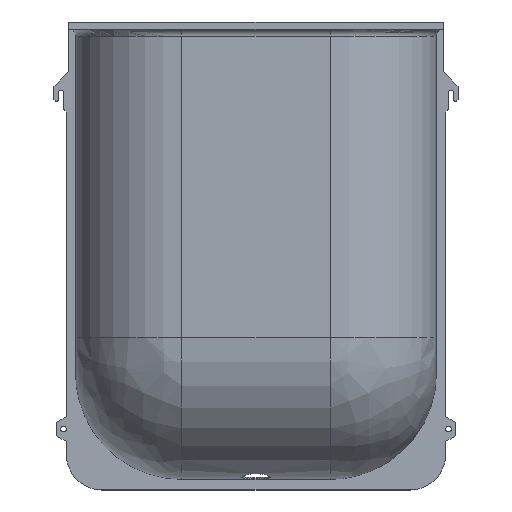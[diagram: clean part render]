
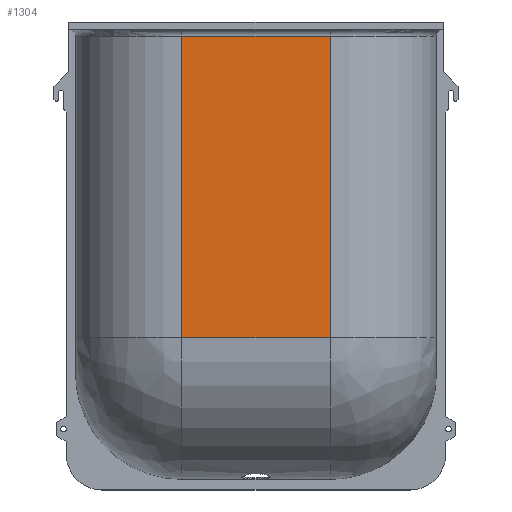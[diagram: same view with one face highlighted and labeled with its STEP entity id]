
A CAD part, top view. The second image highlights one B-rep face of the part: STEP entity #1304.
In plain terms, the highlighted planar face has unit normal (0, 0, 1).
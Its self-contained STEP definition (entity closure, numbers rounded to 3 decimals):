
#36=PLANE('',#1417);
#171=LINE('',#2193,#301);
#182=LINE('',#2234,#312);
#186=LINE('',#2293,#316);
#190=LINE('',#2344,#320);
#301=VECTOR('',#1626,420.);
#312=VECTOR('',#1661,852.);
#316=VECTOR('',#1679,420.);
#320=VECTOR('',#1687,852.);
#420=FACE_OUTER_BOUND('',#496,.T.);
#496=EDGE_LOOP('',(#1053,#1054,#1055,#1056));
#615=VERTEX_POINT('',#2177);
#619=VERTEX_POINT('',#2191);
#631=VERTEX_POINT('',#2233);
#635=VERTEX_POINT('',#2286);
#763=EDGE_CURVE('',#619,#615,#171,.T.);
#781=EDGE_CURVE('',#615,#631,#182,.T.);
#791=EDGE_CURVE('',#635,#631,#186,.T.);
#796=EDGE_CURVE('',#635,#619,#190,.T.);
#1053=ORIENTED_EDGE('',*,*,#763,.F.);
#1054=ORIENTED_EDGE('',*,*,#796,.F.);
#1055=ORIENTED_EDGE('',*,*,#791,.T.);
#1056=ORIENTED_EDGE('',*,*,#781,.F.);
#1304=ADVANCED_FACE('',(#420),#36,.T.);
#1417=AXIS2_PLACEMENT_3D('',#2345,#1688,#1689);
#1626=DIRECTION('',(1.,0.,0.));
#1661=DIRECTION('',(0.,-1.,0.));
#1679=DIRECTION('',(1.,0.,0.));
#1687=DIRECTION('',(0.,1.,0.));
#1688=DIRECTION('center_axis',(0.,0.,1.));
#1689=DIRECTION('ref_axis',(0.,-1.,0.));
#2177=CARTESIAN_POINT('',(210.,-40.,400.));
#2191=CARTESIAN_POINT('',(-210.,-40.,400.));
#2193=CARTESIAN_POINT('',(0.,-40.,400.));
#2233=CARTESIAN_POINT('',(210.,-892.,400.));
#2234=CARTESIAN_POINT('',(210.,-290.126,400.));
#2286=CARTESIAN_POINT('',(-210.,-892.,400.));
#2293=CARTESIAN_POINT('',(0.,-892.,400.));
#2344=CARTESIAN_POINT('',(-210.,-290.126,400.));
#2345=CARTESIAN_POINT('Origin',(0.,0.,400.));
